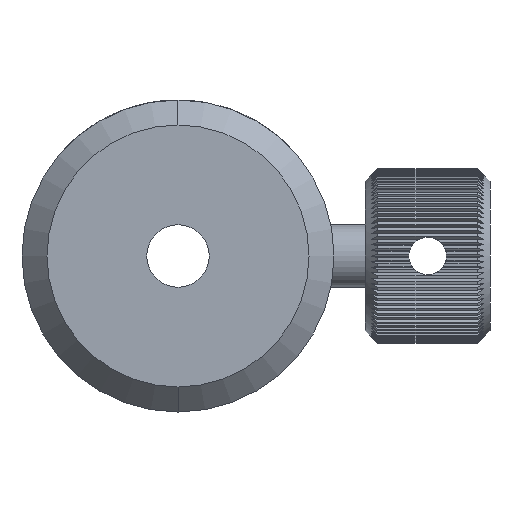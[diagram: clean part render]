
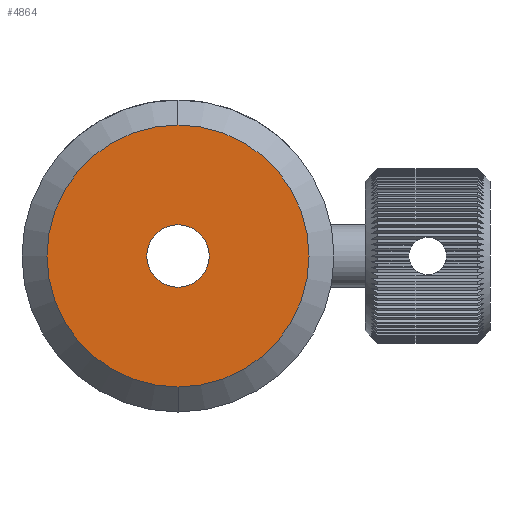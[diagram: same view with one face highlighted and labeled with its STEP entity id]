
A CAD part, front view. The second image highlights one B-rep face of the part: STEP entity #4864.
In plain terms, the highlighted planar face has unit normal (0, -1, 0).
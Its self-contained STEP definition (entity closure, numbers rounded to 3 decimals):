
#236 = CARTESIAN_POINT ( 'NONE',  ( -12.057, -43.765, 74.998 ) ) ;
#797 = CARTESIAN_POINT ( 'NONE',  ( -12.057, -43.765, 85.498 ) ) ;
#874 = DIRECTION ( 'NONE',  ( 0., -1., 0. ) ) ;
#917 = FACE_OUTER_BOUND ( 'NONE', #1276, .T. ) ;
#1276 = EDGE_LOOP ( 'NONE', ( #2626, #4207 ) ) ;
#2027 = DIRECTION ( 'NONE',  ( 0., 0., 1. ) ) ;
#2626 = ORIENTED_EDGE ( 'NONE', *, *, #7395, .T. ) ;
#3238 = DIRECTION ( 'NONE',  ( 0., 0., 1. ) ) ;
#3268 = ORIENTED_EDGE ( 'NONE', *, *, #9185, .F. ) ;
#3447 = AXIS2_PLACEMENT_3D ( 'NONE', #8803, #874, #2027 ) ;
#3581 = AXIS2_PLACEMENT_3D ( 'NONE', #4474, #5500, #3238 ) ;
#3609 = CARTESIAN_POINT ( 'NONE',  ( -12.057, -43.765, 74.998 ) ) ;
#3637 = DIRECTION ( 'NONE',  ( 0., -1., 0. ) ) ;
#3733 = DIRECTION ( 'NONE',  ( 0., 0., 1. ) ) ;
#3887 = CARTESIAN_POINT ( 'NONE',  ( -12.057, -43.765, 64.498 ) ) ;
#4116 = VERTEX_POINT ( 'NONE', #3887 ) ;
#4188 = VERTEX_POINT ( 'NONE', #8325 ) ;
#4207 = ORIENTED_EDGE ( 'NONE', *, *, #13501, .T. ) ;
#4474 = CARTESIAN_POINT ( 'NONE',  ( -12.057, -43.765, 74.998 ) ) ;
#4864 = ADVANCED_FACE ( 'NONE', ( #917, #8286 ), #7822, .F. ) ;
#5500 = DIRECTION ( 'NONE',  ( 0., 1., 0. ) ) ;
#6136 = CIRCLE ( 'NONE', #11309, 2.5 ) ;
#6173 = CARTESIAN_POINT ( 'NONE',  ( -12.057, -43.765, 74.998 ) ) ;
#6340 = CARTESIAN_POINT ( 'NONE',  ( -12.057, -43.765, 72.498 ) ) ;
#6364 = ORIENTED_EDGE ( 'NONE', *, *, #14314, .F. ) ;
#7395 = EDGE_CURVE ( 'NONE', #12451, #4116, #13231, .T. ) ;
#7822 = PLANE ( 'NONE',  #3581 ) ;
#8286 = FACE_BOUND ( 'NONE', #12890, .T. ) ;
#8325 = CARTESIAN_POINT ( 'NONE',  ( -12.057, -43.765, 77.498 ) ) ;
#8803 = CARTESIAN_POINT ( 'NONE',  ( -12.057, -43.765, 74.998 ) ) ;
#9185 = EDGE_CURVE ( 'NONE', #12875, #4188, #6136, .T. ) ;
#10137 = AXIS2_PLACEMENT_3D ( 'NONE', #236, #3637, #3733 ) ;
#10302 = CIRCLE ( 'NONE', #10137, 10.5 ) ;
#10817 = CIRCLE ( 'NONE', #13262, 2.5 ) ;
#11309 = AXIS2_PLACEMENT_3D ( 'NONE', #6173, #11740, #11643 ) ;
#11350 = DIRECTION ( 'NONE',  ( 0., 0., -1. ) ) ;
#11643 = DIRECTION ( 'NONE',  ( 0., 0., -1. ) ) ;
#11740 = DIRECTION ( 'NONE',  ( 0., -1., 0. ) ) ;
#12451 = VERTEX_POINT ( 'NONE', #797 ) ;
#12875 = VERTEX_POINT ( 'NONE', #6340 ) ;
#12890 = EDGE_LOOP ( 'NONE', ( #3268, #6364 ) ) ;
#13231 = CIRCLE ( 'NONE', #3447, 10.5 ) ;
#13262 = AXIS2_PLACEMENT_3D ( 'NONE', #3609, #13575, #11350 ) ;
#13501 = EDGE_CURVE ( 'NONE', #4116, #12451, #10302, .T. ) ;
#13575 = DIRECTION ( 'NONE',  ( 0., -1., 0. ) ) ;
#14314 = EDGE_CURVE ( 'NONE', #4188, #12875, #10817, .T. ) ;
